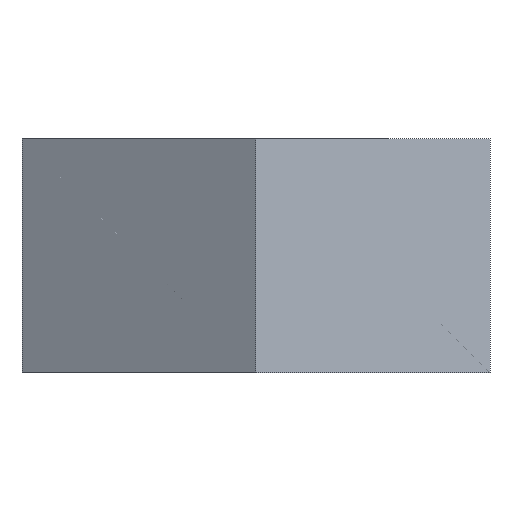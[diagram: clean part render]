
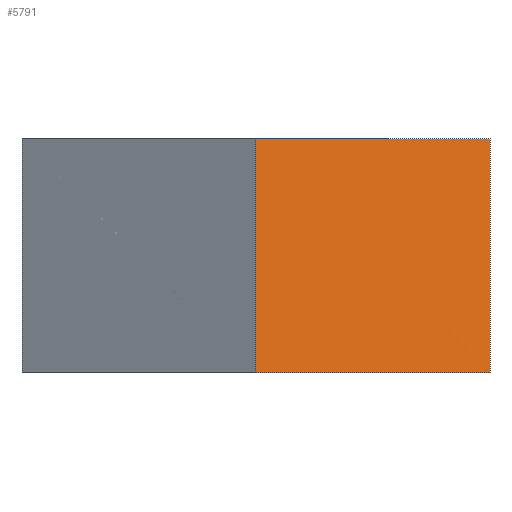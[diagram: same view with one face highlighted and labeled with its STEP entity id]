
A CAD part, left-side view. The second image highlights one B-rep face of the part: STEP entity #5791.
In plain terms, the highlighted planar face has unit normal (-0.866, -0.5, 0).
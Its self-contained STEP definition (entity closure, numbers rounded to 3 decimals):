
#72 = PLANE('',#73);
#73 = AXIS2_PLACEMENT_3D('',#74,#75,#76);
#74 = CARTESIAN_POINT('',(0.,0.,4.));
#75 = DIRECTION('',(0.,0.,1.));
#76 = DIRECTION('',(1.,0.,-0.));
#126 = PLANE('',#127);
#127 = AXIS2_PLACEMENT_3D('',#128,#129,#130);
#128 = CARTESIAN_POINT('',(0.,0.,0.));
#129 = DIRECTION('',(0.,0.,1.));
#130 = DIRECTION('',(1.,0.,-0.));
#166 = VERTEX_POINT('',#167);
#167 = CARTESIAN_POINT('',(-4.619,0.,4.));
#181 = PLANE('',#182);
#182 = AXIS2_PLACEMENT_3D('',#183,#184,#185);
#183 = CARTESIAN_POINT('',(-2.309,4.,0.));
#184 = DIRECTION('',(0.866,-0.5,0.));
#185 = DIRECTION('',(-0.5,-0.866,0.));
#193 = EDGE_CURVE('',#166,#194,#196,.T.);
#194 = VERTEX_POINT('',#195);
#195 = CARTESIAN_POINT('',(-2.309,-4.,4.));
#196 = SURFACE_CURVE('',#197,(#201,#208),.PCURVE_S1.);
#197 = LINE('',#198,#199);
#198 = CARTESIAN_POINT('',(-4.619,0.,4.));
#199 = VECTOR('',#200,1.);
#200 = DIRECTION('',(0.5,-0.866,0.));
#201 = PCURVE('',#72,#202);
#202 = DEFINITIONAL_REPRESENTATION('',(#203),#207);
#203 = LINE('',#204,#205);
#204 = CARTESIAN_POINT('',(-4.619,0.));
#205 = VECTOR('',#206,1.);
#206 = DIRECTION('',(0.5,-0.866));
#207 = ( GEOMETRIC_REPRESENTATION_CONTEXT(2) 
PARAMETRIC_REPRESENTATION_CONTEXT() REPRESENTATION_CONTEXT('2D SPACE',''
  ) );
#208 = PCURVE('',#209,#214);
#209 = PLANE('',#210);
#210 = AXIS2_PLACEMENT_3D('',#211,#212,#213);
#211 = CARTESIAN_POINT('',(-4.619,0.,0.));
#212 = DIRECTION('',(0.866,0.5,-0.));
#213 = DIRECTION('',(0.5,-0.866,0.));
#214 = DEFINITIONAL_REPRESENTATION('',(#215),#219);
#215 = LINE('',#216,#217);
#216 = CARTESIAN_POINT('',(0.,-4.));
#217 = VECTOR('',#218,1.);
#218 = DIRECTION('',(1.,0.));
#219 = ( GEOMETRIC_REPRESENTATION_CONTEXT(2) 
PARAMETRIC_REPRESENTATION_CONTEXT() REPRESENTATION_CONTEXT('2D SPACE',''
  ) );
#237 = PLANE('',#238);
#238 = AXIS2_PLACEMENT_3D('',#239,#240,#241);
#239 = CARTESIAN_POINT('',(-2.309,-4.,0.));
#240 = DIRECTION('',(0.,1.,0.));
#241 = DIRECTION('',(1.,0.,0.));
#5791 = ADVANCED_FACE('',(#5792),#209,.F.);
#5792 = FACE_BOUND('',#5793,.F.);
#5793 = EDGE_LOOP('',(#5794,#5817,#5818,#5841));
#5794 = ORIENTED_EDGE('',*,*,#5795,.T.);
#5795 = EDGE_CURVE('',#5796,#166,#5798,.T.);
#5796 = VERTEX_POINT('',#5797);
#5797 = CARTESIAN_POINT('',(-4.619,0.,0.));
#5798 = SURFACE_CURVE('',#5799,(#5803,#5810),.PCURVE_S1.);
#5799 = LINE('',#5800,#5801);
#5800 = CARTESIAN_POINT('',(-4.619,0.,0.));
#5801 = VECTOR('',#5802,1.);
#5802 = DIRECTION('',(0.,0.,1.));
#5803 = PCURVE('',#209,#5804);
#5804 = DEFINITIONAL_REPRESENTATION('',(#5805),#5809);
#5805 = LINE('',#5806,#5807);
#5806 = CARTESIAN_POINT('',(0.,0.));
#5807 = VECTOR('',#5808,1.);
#5808 = DIRECTION('',(0.,-1.));
#5809 = ( GEOMETRIC_REPRESENTATION_CONTEXT(2) 
PARAMETRIC_REPRESENTATION_CONTEXT() REPRESENTATION_CONTEXT('2D SPACE',''
  ) );
#5810 = PCURVE('',#181,#5811);
#5811 = DEFINITIONAL_REPRESENTATION('',(#5812),#5816);
#5812 = LINE('',#5813,#5814);
#5813 = CARTESIAN_POINT('',(4.619,0.));
#5814 = VECTOR('',#5815,1.);
#5815 = DIRECTION('',(0.,-1.));
#5816 = ( GEOMETRIC_REPRESENTATION_CONTEXT(2) 
PARAMETRIC_REPRESENTATION_CONTEXT() REPRESENTATION_CONTEXT('2D SPACE',''
  ) );
#5817 = ORIENTED_EDGE('',*,*,#193,.T.);
#5818 = ORIENTED_EDGE('',*,*,#5819,.F.);
#5819 = EDGE_CURVE('',#5820,#194,#5822,.T.);
#5820 = VERTEX_POINT('',#5821);
#5821 = CARTESIAN_POINT('',(-2.309,-4.,0.));
#5822 = SURFACE_CURVE('',#5823,(#5827,#5834),.PCURVE_S1.);
#5823 = LINE('',#5824,#5825);
#5824 = CARTESIAN_POINT('',(-2.309,-4.,0.));
#5825 = VECTOR('',#5826,1.);
#5826 = DIRECTION('',(0.,0.,1.));
#5827 = PCURVE('',#209,#5828);
#5828 = DEFINITIONAL_REPRESENTATION('',(#5829),#5833);
#5829 = LINE('',#5830,#5831);
#5830 = CARTESIAN_POINT('',(4.619,0.));
#5831 = VECTOR('',#5832,1.);
#5832 = DIRECTION('',(0.,-1.));
#5833 = ( GEOMETRIC_REPRESENTATION_CONTEXT(2) 
PARAMETRIC_REPRESENTATION_CONTEXT() REPRESENTATION_CONTEXT('2D SPACE',''
  ) );
#5834 = PCURVE('',#237,#5835);
#5835 = DEFINITIONAL_REPRESENTATION('',(#5836),#5840);
#5836 = LINE('',#5837,#5838);
#5837 = CARTESIAN_POINT('',(0.,0.));
#5838 = VECTOR('',#5839,1.);
#5839 = DIRECTION('',(0.,-1.));
#5840 = ( GEOMETRIC_REPRESENTATION_CONTEXT(2) 
PARAMETRIC_REPRESENTATION_CONTEXT() REPRESENTATION_CONTEXT('2D SPACE',''
  ) );
#5841 = ORIENTED_EDGE('',*,*,#5842,.F.);
#5842 = EDGE_CURVE('',#5796,#5820,#5843,.T.);
#5843 = SURFACE_CURVE('',#5844,(#5848,#5855),.PCURVE_S1.);
#5844 = LINE('',#5845,#5846);
#5845 = CARTESIAN_POINT('',(-4.619,0.,0.));
#5846 = VECTOR('',#5847,1.);
#5847 = DIRECTION('',(0.5,-0.866,0.));
#5848 = PCURVE('',#209,#5849);
#5849 = DEFINITIONAL_REPRESENTATION('',(#5850),#5854);
#5850 = LINE('',#5851,#5852);
#5851 = CARTESIAN_POINT('',(0.,0.));
#5852 = VECTOR('',#5853,1.);
#5853 = DIRECTION('',(1.,0.));
#5854 = ( GEOMETRIC_REPRESENTATION_CONTEXT(2) 
PARAMETRIC_REPRESENTATION_CONTEXT() REPRESENTATION_CONTEXT('2D SPACE',''
  ) );
#5855 = PCURVE('',#126,#5856);
#5856 = DEFINITIONAL_REPRESENTATION('',(#5857),#5861);
#5857 = LINE('',#5858,#5859);
#5858 = CARTESIAN_POINT('',(-4.619,0.));
#5859 = VECTOR('',#5860,1.);
#5860 = DIRECTION('',(0.5,-0.866));
#5861 = ( GEOMETRIC_REPRESENTATION_CONTEXT(2) 
PARAMETRIC_REPRESENTATION_CONTEXT() REPRESENTATION_CONTEXT('2D SPACE',''
  ) );
